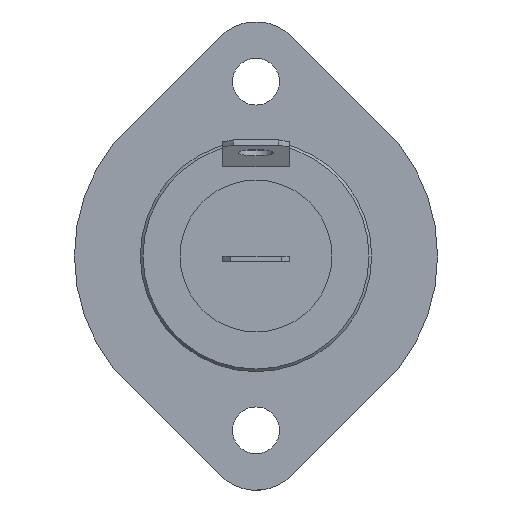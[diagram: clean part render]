
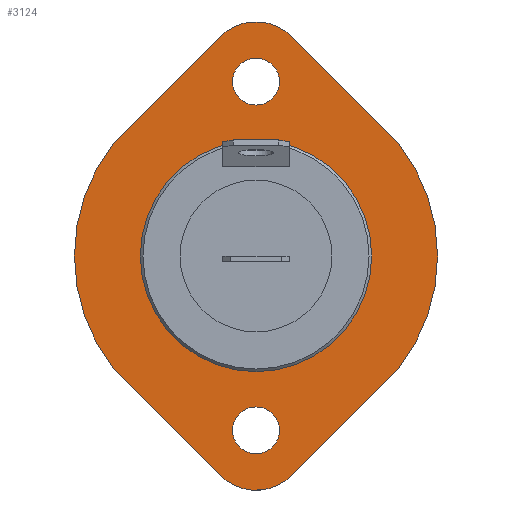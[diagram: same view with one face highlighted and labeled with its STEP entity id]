
A CAD part, front view. The second image highlights one B-rep face of the part: STEP entity #3124.
In plain terms, the highlighted planar face has unit normal (0, -1, 0).
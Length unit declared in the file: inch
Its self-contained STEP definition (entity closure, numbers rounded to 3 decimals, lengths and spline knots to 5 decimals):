
#237=FACE_BOUND('',#557,.T.);
#238=FACE_BOUND('',#558,.T.);
#239=FACE_BOUND('',#559,.T.);
#274=PLANE('',#3398);
#375=FACE_OUTER_BOUND('',#556,.T.);
#556=EDGE_LOOP('',(#2187,#2188,#2189,#2190,#2191,#2192,#2193,#2194));
#557=EDGE_LOOP('',(#2195));
#558=EDGE_LOOP('',(#2196));
#559=EDGE_LOOP('',(#2197));
#760=LINE('',#4174,#1061);
#763=LINE('',#4180,#1064);
#764=LINE('',#4184,#1065);
#765=LINE('',#4188,#1066);
#1061=VECTOR('',#3568,0.3937);
#1064=VECTOR('',#3573,0.3937);
#1065=VECTOR('',#3576,0.3937);
#1066=VECTOR('',#3579,0.3937);
#1359=CIRCLE('',#3390,0.08858);
#1361=CIRCLE('',#3393,0.08858);
#1362=CIRCLE('',#3395,0.19);
#1364=CIRCLE('',#3399,0.68683);
#1365=CIRCLE('',#3400,0.19);
#1366=CIRCLE('',#3401,0.68683);
#1367=CIRCLE('',#3402,0.4375);
#1392=VERTEX_POINT('',#4154);
#1394=VERTEX_POINT('',#4160);
#1395=VERTEX_POINT('',#4164);
#1396=VERTEX_POINT('',#4165);
#1399=VERTEX_POINT('',#4173);
#1401=VERTEX_POINT('',#4179);
#1402=VERTEX_POINT('',#4181);
#1403=VERTEX_POINT('',#4183);
#1404=VERTEX_POINT('',#4185);
#1405=VERTEX_POINT('',#4187);
#1406=VERTEX_POINT('',#4190);
#1705=EDGE_CURVE('',#1392,#1392,#1359,.T.);
#1708=EDGE_CURVE('',#1394,#1394,#1361,.T.);
#1709=EDGE_CURVE('',#1395,#1396,#1362,.T.);
#1713=EDGE_CURVE('',#1396,#1399,#760,.T.);
#1716=EDGE_CURVE('',#1401,#1395,#763,.T.);
#1717=EDGE_CURVE('',#1402,#1401,#1364,.T.);
#1718=EDGE_CURVE('',#1403,#1402,#764,.T.);
#1719=EDGE_CURVE('',#1404,#1403,#1365,.T.);
#1720=EDGE_CURVE('',#1405,#1404,#765,.T.);
#1721=EDGE_CURVE('',#1399,#1405,#1366,.T.);
#1722=EDGE_CURVE('',#1406,#1406,#1367,.T.);
#2187=ORIENTED_EDGE('',*,*,#1709,.F.);
#2188=ORIENTED_EDGE('',*,*,#1716,.F.);
#2189=ORIENTED_EDGE('',*,*,#1717,.F.);
#2190=ORIENTED_EDGE('',*,*,#1718,.F.);
#2191=ORIENTED_EDGE('',*,*,#1719,.F.);
#2192=ORIENTED_EDGE('',*,*,#1720,.F.);
#2193=ORIENTED_EDGE('',*,*,#1721,.F.);
#2194=ORIENTED_EDGE('',*,*,#1713,.F.);
#2195=ORIENTED_EDGE('',*,*,#1705,.T.);
#2196=ORIENTED_EDGE('',*,*,#1708,.T.);
#2197=ORIENTED_EDGE('',*,*,#1722,.T.);
#3124=ADVANCED_FACE('',(#375,#237,#238,#239),#274,.T.);
#3390=AXIS2_PLACEMENT_3D('',#4156,#3549,#3550);
#3393=AXIS2_PLACEMENT_3D('',#4162,#3556,#3557);
#3395=AXIS2_PLACEMENT_3D('',#4166,#3560,#3561);
#3398=AXIS2_PLACEMENT_3D('',#4178,#3571,#3572);
#3399=AXIS2_PLACEMENT_3D('',#4182,#3574,#3575);
#3400=AXIS2_PLACEMENT_3D('',#4186,#3577,#3578);
#3401=AXIS2_PLACEMENT_3D('',#4189,#3580,#3581);
#3402=AXIS2_PLACEMENT_3D('',#4191,#3582,#3583);
#3549=DIRECTION('center_axis',(0.,1.,0.));
#3550=DIRECTION('ref_axis',(-1.,0.,0.));
#3556=DIRECTION('center_axis',(0.,1.,0.));
#3557=DIRECTION('ref_axis',(-1.,0.,0.));
#3560=DIRECTION('center_axis',(0.,1.,0.));
#3561=DIRECTION('ref_axis',(0.,0.,1.));
#3568=DIRECTION('',(0.707,0.,-0.707));
#3571=DIRECTION('center_axis',(0.,-1.,0.));
#3572=DIRECTION('ref_axis',(0.,0.,-1.));
#3573=DIRECTION('',(0.707,0.,0.707));
#3574=DIRECTION('center_axis',(0.,1.,0.));
#3575=DIRECTION('ref_axis',(-0.619,0.,-0.785));
#3576=DIRECTION('',(-0.707,0.,0.707));
#3577=DIRECTION('center_axis',(0.,1.,0.));
#3578=DIRECTION('ref_axis',(0.,0.,-1.));
#3579=DIRECTION('',(-0.707,0.,-0.707));
#3580=DIRECTION('center_axis',(0.,1.,0.));
#3581=DIRECTION('ref_axis',(0.619,0.,0.785));
#3582=DIRECTION('center_axis',(0.,1.,0.));
#3583=DIRECTION('ref_axis',(-1.,0.,0.));
#4154=CARTESIAN_POINT('',(0.08858,-0.19705,-0.65945));
#4156=CARTESIAN_POINT('Origin',(0.,-0.19705,-0.65945));
#4160=CARTESIAN_POINT('',(0.08858,-0.19705,0.65945));
#4162=CARTESIAN_POINT('Origin',(0.,-0.19705,0.65945));
#4164=CARTESIAN_POINT('',(-0.13435,-0.19705,0.83022));
#4165=CARTESIAN_POINT('',(0.13435,-0.19705,0.83022));
#4166=CARTESIAN_POINT('Origin',(0.,-0.19705,
0.69587));
#4173=CARTESIAN_POINT('',(0.53946,-0.19705,0.42511));
#4174=CARTESIAN_POINT('',(0.51087,-0.19705,0.45369));
#4178=CARTESIAN_POINT('Origin',(0.,-0.19705,0.));
#4179=CARTESIAN_POINT('',(-0.53946,-0.19705,0.42511));
#4180=CARTESIAN_POINT('',(-0.24114,-0.19705,0.72343));
#4181=CARTESIAN_POINT('',(-0.53946,-0.19705,-0.42511));
#4182=CARTESIAN_POINT('Origin',(0.,-0.19705,0.));
#4183=CARTESIAN_POINT('',(-0.13435,-0.19705,-0.83022));
#4184=CARTESIAN_POINT('',(-0.51087,-0.19705,-0.45369));
#4185=CARTESIAN_POINT('',(0.13435,-0.19705,-0.83022));
#4186=CARTESIAN_POINT('Origin',(0.,-0.19705,
-0.69587));
#4187=CARTESIAN_POINT('',(0.53946,-0.19705,-0.42511));
#4188=CARTESIAN_POINT('',(0.24114,-0.19705,-0.72343));
#4189=CARTESIAN_POINT('Origin',(0.,-0.19705,0.));
#4190=CARTESIAN_POINT('',(0.4375,-0.19705,0.));
#4191=CARTESIAN_POINT('Origin',(0.,-0.19705,0.));
